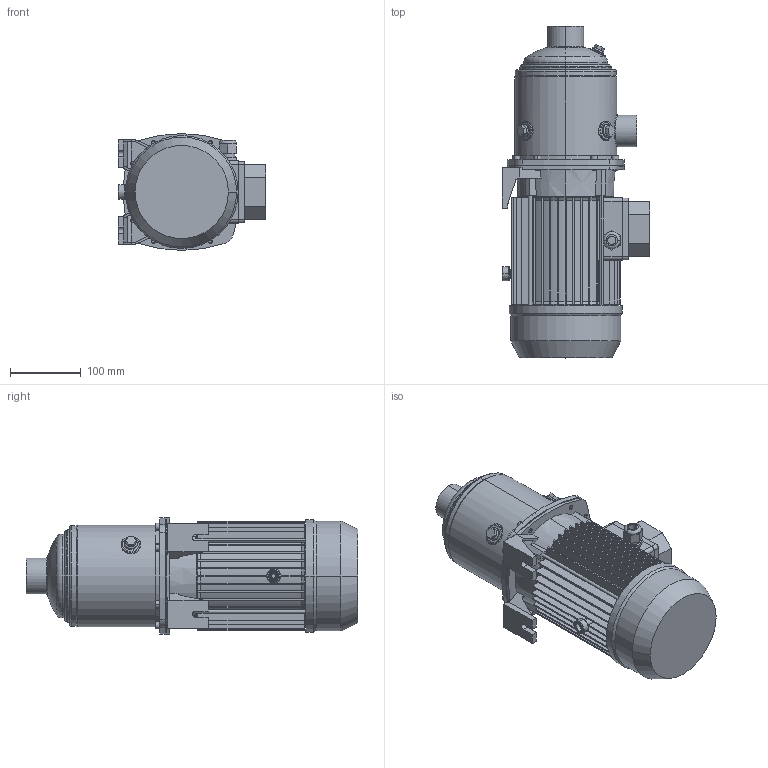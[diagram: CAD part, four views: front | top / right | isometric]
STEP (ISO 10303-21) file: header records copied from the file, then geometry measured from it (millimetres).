
FILE_DESCRIPTION((''),'2;1');
FILE_NAME('MATRIX_10-4T_1_5_IE3_ASM','2017-06-21T',('rosa'),('"Ebara Pumps Europe +39.444.706811"'),'PRO/ENGINEER BY PARAMETRIC TECHNOLOGY CORPORATION, 2012130','PRO/ENGINEER BY PARAMETRIC TECHNOLOGY CORPORATION, 2012130','');
FILE_SCHEMA(('AUTOMOTIVE_DESIGN { 1 0 10303 214 1 1 1 1 }'));
Length unit declared in the file: millimetre
Products named in the file (5): CORPO_POMPA_MATRIX_10-4; SUPPORTO_MATRIX_MEC_80; MEC_80X130_IE3; 72229; MATRIX_10-4T_1_5_IE3_ASM
Assembly tree (4 placements, depth 2):
  MATRIX_10-4T_1_5_IE3_ASM
    CORPO_POMPA_MATRIX_10-4
    SUPPORTO_MATRIX_MEC_80
    MEC_80X130_IE3
    72229
Bounding box: 209 x 468.8 x 165 mm (x, y, z)
Volume: 5376447.1 mm3; surface area: 580870.8 mm2
Topology: 4 solids, 4 shells, 718 faces, 1729 edges, 1067 vertices
Faces by surface type: plane 377, cylinder 186, cone 102, torus 37, bspline 14, sphere 2
Entity records: 28097 total; most frequent: CARTESIAN_POINT 5380, DIRECTION 3658, ORIENTED_EDGE 3458, EDGE_CURVE 1729, PRESENTATION_STYLE_ASSIGNMENT 1682, STYLED_ITEM 1682, CURVE_STYLE 1679, AXIS2_PLACEMENT_3D 1400
